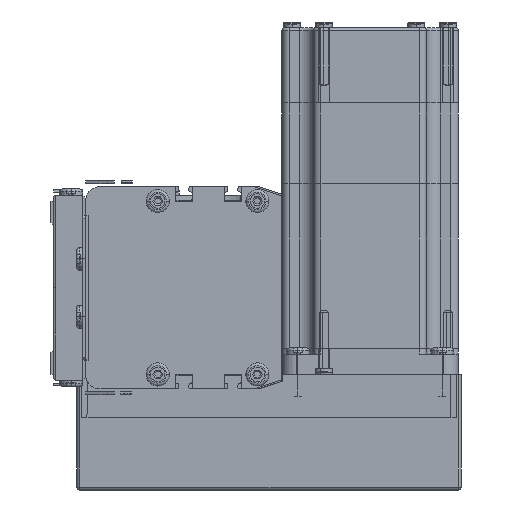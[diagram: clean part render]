
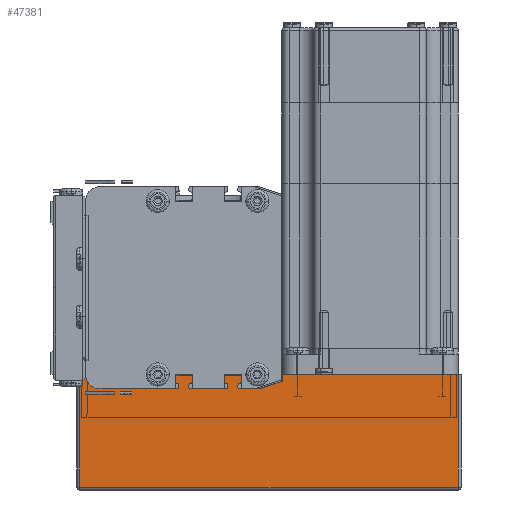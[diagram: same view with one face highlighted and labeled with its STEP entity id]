
A CAD part, left-side view. The second image highlights one B-rep face of the part: STEP entity #47381.
In plain terms, the highlighted planar face has unit normal (-1, 0, 0) as drawn and (0, 1, 0) by its records, which use the part's own axes.
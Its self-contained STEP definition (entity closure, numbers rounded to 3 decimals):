
#47247 = EDGE_CURVE ( 'NONE', #47261, #47257, #87107, .T. ) ;
#47257 = VERTEX_POINT ( 'NONE', #87230 ) ;
#47261 = VERTEX_POINT ( 'NONE', #87218 ) ;
#47366 = VERTEX_POINT ( 'NONE', #88524 ) ;
#47368 = ORIENTED_EDGE ( 'NONE', *, *, #47247, .T. ) ;
#47372 = ORIENTED_EDGE ( 'NONE', *, *, #47384, .T. ) ;
#47373 = EDGE_LOOP ( 'NONE', ( #47383, #47372, #47368, #47417 ) ) ;
#47379 = EDGE_CURVE ( 'NONE', #47450, #47366, #88064, .T. ) ;
#47381 = ADVANCED_FACE ( 'NONE', ( #87852 ), #88516, .F. ) ;
#47383 = ORIENTED_EDGE ( 'NONE', *, *, #47379, .T. ) ;
#47384 = EDGE_CURVE ( 'NONE', #47366, #47261, #87963, .T. ) ;
#47385 = EDGE_CURVE ( 'NONE', #47257, #47450, #88882, .T. ) ;
#47417 = ORIENTED_EDGE ( 'NONE', *, *, #47385, .T. ) ;
#47450 = VERTEX_POINT ( 'NONE', #89012 ) ;
#87103 = DIRECTION ( 'NONE',  ( -1., 0., 0. ) ) ;
#87104 = VECTOR ( 'NONE', #87103, 1000. ) ;
#87105 = CARTESIAN_POINT ( 'NONE',  ( 0., 62., 0. ) ) ;
#87107 = LINE ( 'NONE', #87105, #87104 ) ;
#87218 = CARTESIAN_POINT ( 'NONE',  ( 132., 62., 0. ) ) ;
#87230 = CARTESIAN_POINT ( 'NONE',  ( 1., 62., 0. ) ) ;
#87852 = FACE_OUTER_BOUND ( 'NONE', #47373, .T. ) ;
#87963 = LINE ( 'NONE', #88058, #88057 ) ;
#88056 = DIRECTION ( 'NONE',  ( 0., 0., -1. ) ) ;
#88057 = VECTOR ( 'NONE', #88056, 1000. ) ;
#88058 = CARTESIAN_POINT ( 'NONE',  ( 132., 62., 40. ) ) ;
#88059 = DIRECTION ( 'NONE',  ( 1., 0., 0. ) ) ;
#88060 = VECTOR ( 'NONE', #88059, 1000. ) ;
#88061 = CARTESIAN_POINT ( 'NONE',  ( 0., 62., 39. ) ) ;
#88064 = LINE ( 'NONE', #88061, #88060 ) ;
#88325 = AXIS2_PLACEMENT_3D ( 'NONE', #88751, #88741, #88705 ) ;
#88516 = PLANE ( 'NONE',  #88325 ) ;
#88524 = CARTESIAN_POINT ( 'NONE',  ( 132., 62., 39. ) ) ;
#88705 = DIRECTION ( 'NONE',  ( 0., 0., -1. ) ) ;
#88741 = DIRECTION ( 'NONE',  ( 0., -1., 0. ) ) ;
#88751 = CARTESIAN_POINT ( 'NONE',  ( 0., 62., 40. ) ) ;
#88878 = DIRECTION ( 'NONE',  ( 0., 0., 1. ) ) ;
#88879 = VECTOR ( 'NONE', #88878, 1000. ) ;
#88881 = CARTESIAN_POINT ( 'NONE',  ( 1., 62., 40. ) ) ;
#88882 = LINE ( 'NONE', #88881, #88879 ) ;
#89012 = CARTESIAN_POINT ( 'NONE',  ( 1., 62., 39. ) ) ;
